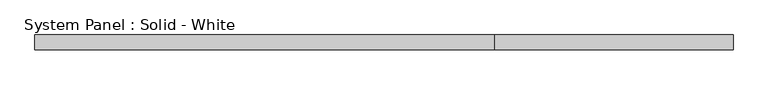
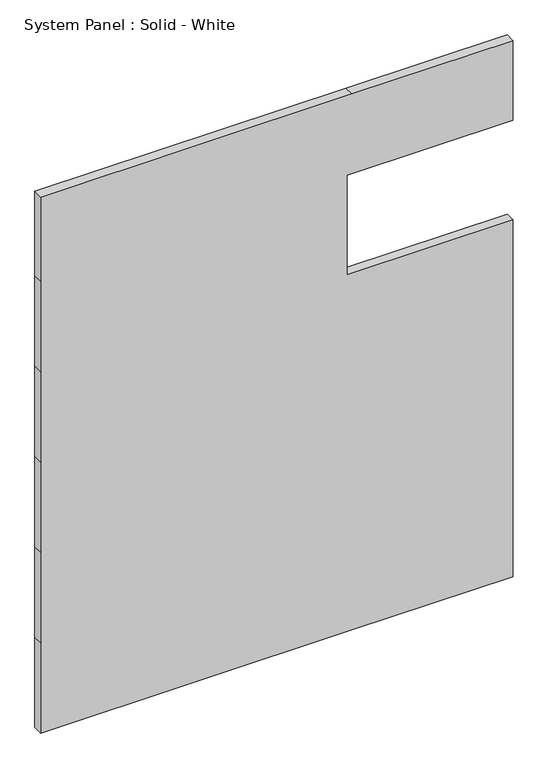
"""IFC4 building model written with IfcOpenShell, lengths in millimetres: plate geometry, System Panel : Solid - White."""

from ifc_helpers import new_model, si_unit, frame, origin, place, context, project, spatial, polyline, outline, extrude, source, transform, mapped, element, save


def system_panel_solid_white_c18d295d(model_context):
    return source(origin(), model_context, "Body", "SweptSolid", [
        extrude(outline(polyline([(0.0, -1508.125), (0.0, 479.425), (0.0, 1508.125), (609.6, 1508.125), (1219.2, 1508.125), (1828.8, 1508.125), (2406.65, 1508.125), (2406.65, 447.675), (3079.75, 447.675), (3079.75, 1508.125), (3615.7975583, 1508.125), (3615.7975583, 479.425), (3615.7975583, -1508.125), (3048.0, -1508.125), (2438.4, -1508.125), (1828.8, -1508.125), (1219.2, -1508.125), (609.6, -1508.125), (0.0, -1508.125)])), frame((0.0, -44.45, 0.0), z_axis=(0.0, 1.0, 0.0), x_axis=(0.0, 0.0, 1.0)), (0.0, 0.0, 1.0), 63.5),
    ])


if __name__ == "__main__":
    model = new_model("IFC4")
    model_context = context("Model", 3, world=origin())
    ifc_project = project(units=[si_unit("LENGTHUNIT", "METRE", prefix="MILLI")], contexts=[model_context])
    site = spatial("IfcSite", under=ifc_project)
    building = spatial("IfcBuilding", under=site)
    placement = place(None, origin())
    system_panel_solid_white_shape = system_panel_solid_white_c18d295d(model_context)
    element("IfcPlate", 1, ObjectType="System Panel : Solid - White", at=placement, inside=building, context=model_context, shape_type="MappedRepresentation", body=[
        mapped(system_panel_solid_white_shape, transform((0.0, 0.0, 0.0), x_axis=(1.0, 0.0, 0.0), y_axis=(0.0, 1.0, 0.0), z_axis=(0.0, 0.0, 1.0))),
    ])
    save(model, "model.ifc")
